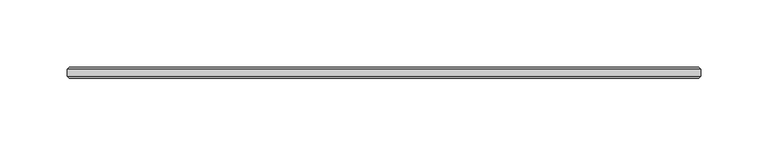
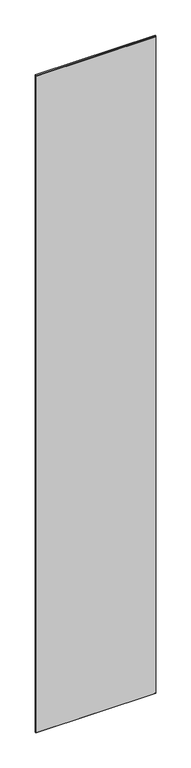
"""IFC4 building model written with IfcOpenShell, lengths in millimetres: plate geometry, 1-AMG-1-Панель одинарный витраж 8, 10 : Смещение 32 Толщина 8mm."""

from ifc_helpers import new_model, si_unit, origin, place, context, project, spatial, faceted_brep, source, transform, mapped, element, save


def plate_24773b22(model_context):
    return source(origin(), model_context, "Body", "Brep", [
        faceted_brep([(249.45, 29.5038347, 2722.8), (249.45, 34.4961653, 2722.8), (-221.45, 34.4961653, 2722.8), (-221.45, 29.5038347, 2722.8), (249.45, 34.4961653, -7.0), (249.45, 29.5038347, -7.0), (-221.45, 29.5038347, -7.0), (-221.45, 34.4961653, -7.0), (-219.9461653, 36.0, 2721.2961653), (247.9461653, 36.0, 2721.2961653), (247.9461653, 36.0, -5.5039422), (-219.9461653, 36.0, -5.5039422), (247.9461653, 28.0, 2721.2961653), (-219.9461653, 28.0, 2721.2961653), (-219.9461653, 28.0, -5.4961653), (247.9461653, 28.0, -5.4961653)], [[[0, 1, 2, 3]], [[4, 5, 6, 7]], [[8, 9, 10, 11]], [[3, 2, 7, 6]], [[12, 13, 14, 15]], [[1, 0, 5, 4]], [[1, 4, 10, 9]], [[5, 0, 12, 15]], [[7, 2, 8, 11]], [[3, 6, 14, 13]], [[0, 3, 13, 12]], [[2, 1, 9, 8]], [[6, 5, 15, 14]], [[4, 7, 11, 10]]]),
    ])


if __name__ == "__main__":
    model = new_model("IFC4")
    model_context = context("Model", 3, world=origin())
    ifc_project = project(units=[si_unit("LENGTHUNIT", "METRE", prefix="MILLI")], contexts=[model_context])
    site = spatial("IfcSite", under=ifc_project)
    building = spatial("IfcBuilding", under=site)
    placement = place(None, origin())
    plate_shape = plate_24773b22(model_context)
    element("IfcPlate", 1, ObjectType="1-AMG-1-Панель одинарный витраж 8, 10 : Смещение 32 Толщина 8mm", at=placement, inside=building, context=model_context, shape_type="MappedRepresentation", body=[
        mapped(plate_shape, transform((0.0, 0.0, 0.0), x_axis=(1.0, 0.0, 0.0), y_axis=(0.0, 1.0, 0.0), z_axis=(0.0, 0.0, 1.0))),
    ])
    save(model, "model.ifc")
